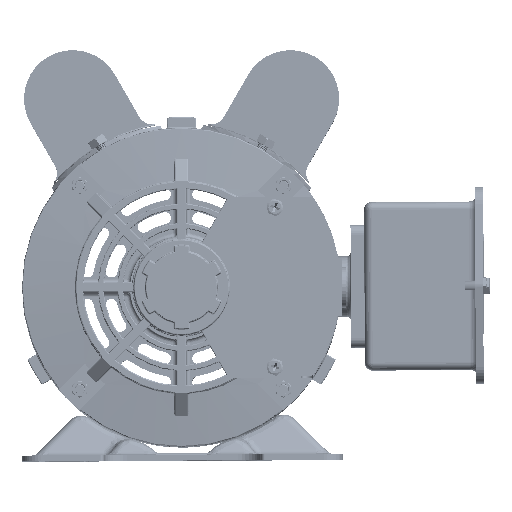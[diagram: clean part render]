
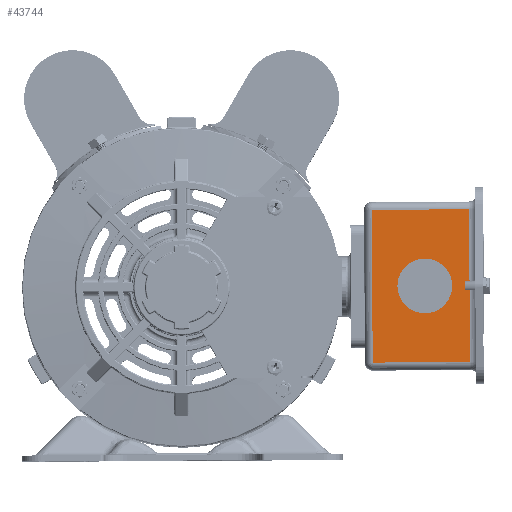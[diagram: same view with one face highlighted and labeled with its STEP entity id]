
A CAD part, top view. The second image highlights one B-rep face of the part: STEP entity #43744.
In plain terms, the highlighted planar face has unit normal (0, 0, 1) as drawn and (0, -1, 0) by its records, which use the part's own axes.
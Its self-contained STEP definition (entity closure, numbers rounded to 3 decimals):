
#3716 = CARTESIAN_POINT ( 'NONE',  ( -21.264, -36.339, 125.335 ) ) ;
#4625 = VERTEX_POINT ( 'NONE', #74213 ) ;
#4977 = LINE ( 'NONE', #44093, #69481 ) ;
#5224 = EDGE_CURVE ( 'NONE', #4625, #92237, #22737, .T. ) ;
#6975 = VERTEX_POINT ( 'NONE', #3716 ) ;
#9419 = FACE_BOUND ( 'NONE', #12672, .T. ) ;
#10114 = LINE ( 'NONE', #49201, #98446 ) ;
#12672 = EDGE_LOOP ( 'NONE', ( #80525, #54382 ) ) ;
#14981 = DIRECTION ( 'NONE',  ( 0., 0., -1. ) ) ;
#18882 = AXIS2_PLACEMENT_3D ( 'NONE', #116975, #29234, #68284 ) ;
#19390 = CARTESIAN_POINT ( 'NONE',  ( -21.264, -36.339, 111.25 ) ) ;
#22647 = ORIENTED_EDGE ( 'NONE', *, *, #38408, .T. ) ;
#22737 = LINE ( 'NONE', #61789, #44130 ) ;
#23059 = AXIS2_PLACEMENT_3D ( 'NONE', #19390, #58422, #97505 ) ;
#29234 = DIRECTION ( 'NONE',  ( 0., -1., 0. ) ) ;
#31445 = CARTESIAN_POINT ( 'NONE',  ( -21.264, -36.339, 97.165 ) ) ;
#33050 = ORIENTED_EDGE ( 'NONE', *, *, #123035, .T. ) ;
#38408 = EDGE_CURVE ( 'NONE', #92237, #93550, #10114, .T. ) ;
#38909 = DIRECTION ( 'NONE',  ( 0., 0., -1. ) ) ;
#39699 = EDGE_CURVE ( 'NONE', #93016, #6975, #74117, .T. ) ;
#43744 = ADVANCED_FACE ( 'NONE', ( #97187, #9419 ), #48519, .T. ) ;
#44093 = CARTESIAN_POINT ( 'NONE',  ( -21.264, -36.339, 138.25 ) ) ;
#44130 = VECTOR ( 'NONE', #100869, 1000. ) ;
#44808 = CARTESIAN_POINT ( 'NONE',  ( 17.986, -36.339, 88.25 ) ) ;
#48519 = PLANE ( 'NONE',  #122328 ) ;
#49201 = CARTESIAN_POINT ( 'NONE',  ( 17.986, -36.339, 142.25 ) ) ;
#54382 = ORIENTED_EDGE ( 'NONE', *, *, #55956, .F. ) ;
#55956 = EDGE_CURVE ( 'NONE', #6975, #93016, #78265, .T. ) ;
#58013 = CARTESIAN_POINT ( 'NONE',  ( 17.986, -36.339, 138.25 ) ) ;
#58422 = DIRECTION ( 'NONE',  ( 0., -1., 0. ) ) ;
#60530 = EDGE_CURVE ( 'NONE', #61458, #4625, #63661, .T. ) ;
#61458 = VERTEX_POINT ( 'NONE', #116454 ) ;
#61789 = CARTESIAN_POINT ( 'NONE',  ( 21.986, -36.339, 88.25 ) ) ;
#63661 = LINE ( 'NONE', #102753, #122693 ) ;
#64825 = EDGE_LOOP ( 'NONE', ( #126244, #96294, #22647, #33050 ) ) ;
#68284 = DIRECTION ( 'NONE',  ( 0., 0., -1. ) ) ;
#69481 = VECTOR ( 'NONE', #83146, 1000. ) ;
#74117 = CIRCLE ( 'NONE', #18882, 14.085 ) ;
#74213 = CARTESIAN_POINT ( 'NONE',  ( -60.514, -36.339, 88.25 ) ) ;
#78265 = CIRCLE ( 'NONE', #23059, 14.085 ) ;
#80525 = ORIENTED_EDGE ( 'NONE', *, *, #39699, .F. ) ;
#83146 = DIRECTION ( 'NONE',  ( -1., 0., 0. ) ) ;
#87604 = CARTESIAN_POINT ( 'NONE',  ( -21.264, -36.339, 84.25 ) ) ;
#88283 = DIRECTION ( 'NONE',  ( 0., 0., 1. ) ) ;
#92237 = VERTEX_POINT ( 'NONE', #44808 ) ;
#93016 = VERTEX_POINT ( 'NONE', #31445 ) ;
#93550 = VERTEX_POINT ( 'NONE', #58013 ) ;
#96294 = ORIENTED_EDGE ( 'NONE', *, *, #5224, .T. ) ;
#97187 = FACE_OUTER_BOUND ( 'NONE', #64825, .T. ) ;
#97505 = DIRECTION ( 'NONE',  ( 0., 0., -1. ) ) ;
#98446 = VECTOR ( 'NONE', #88283, 1000. ) ;
#100869 = DIRECTION ( 'NONE',  ( 1., 0., 0. ) ) ;
#102753 = CARTESIAN_POINT ( 'NONE',  ( -60.514, -36.339, 84.25 ) ) ;
#116454 = CARTESIAN_POINT ( 'NONE',  ( -60.514, -36.339, 138.25 ) ) ;
#116975 = CARTESIAN_POINT ( 'NONE',  ( -21.264, -36.339, 111.25 ) ) ;
#122328 = AXIS2_PLACEMENT_3D ( 'NONE', #87604, #126652, #38909 ) ;
#122693 = VECTOR ( 'NONE', #14981, 1000. ) ;
#123035 = EDGE_CURVE ( 'NONE', #93550, #61458, #4977, .T. ) ;
#126244 = ORIENTED_EDGE ( 'NONE', *, *, #60530, .T. ) ;
#126652 = DIRECTION ( 'NONE',  ( 0., -1., 0. ) ) ;
